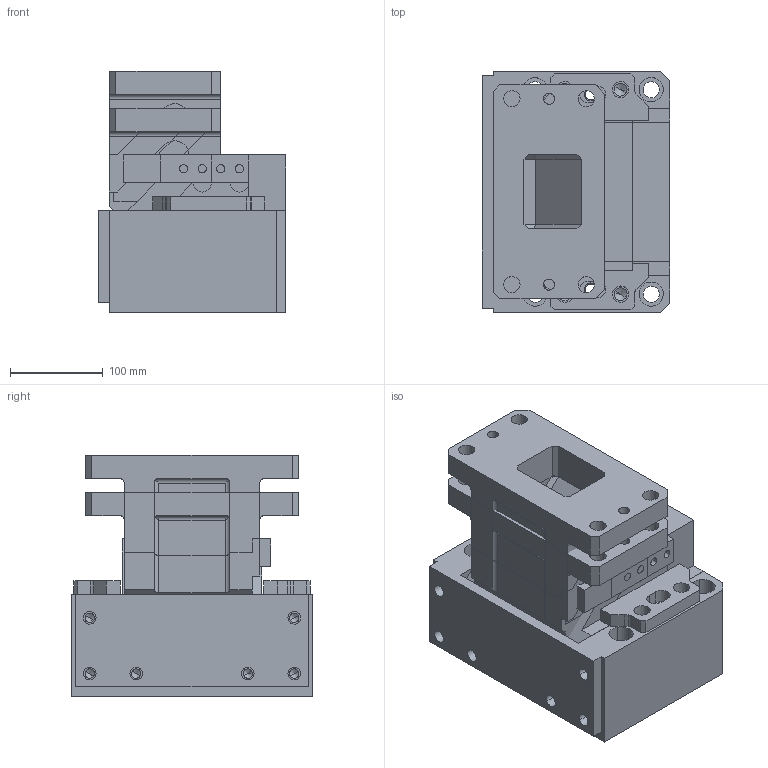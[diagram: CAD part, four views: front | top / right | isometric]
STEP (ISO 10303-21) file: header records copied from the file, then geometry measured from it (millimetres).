
FILE_DESCRIPTION(('CATIA V5 STEP','CAx-IF Rec.Pracs.--- Model Styling and Organization---1.4--- 2014-01-23','CAx-IF Rec.Pracs.---3D Tessellated Data Validation Properties---0.5---2014-09-14'),'2;1');
FILE_NAME('H:\_COMPRESS_2\2016.11.00.150.040.1.2__CM.stp','2020-11-18T12:53:11+00:00',('${USER}'),('AUDI AG, ${GROUP}'),'CATIA Version 5-6 Release 2018 SP3 HF27','CATIA V5 STEP AP242','none');
FILE_SCHEMA(('AP242_MANAGED_MODEL_BASED_3D_ENGINEERING_MIM_LF {1 0 10303 442 1 1 4}'));
Length unit declared in the file: millimetre
Products named in the file (1): 2016.11.00.150.040.1.2__CM
Bounding box: 202 x 260 x 260 mm (x, y, z)
Volume: 10923258.6 mm3; surface area: 840869.6 mm2
Topology: 4 solids, 4 shells, 504 faces, 1283 edges, 816 vertices
Faces by surface type: plane 291, cylinder 179, cone 28, sphere 4, bspline 2
Entity records: 14354 total; most frequent: CARTESIAN_POINT 2793, ORIENTED_EDGE 2512, DIRECTION 1983, EDGE_CURVE 1256, VECTOR 859, LINE 859, VERTEX_POINT 812, AXIS2_PLACEMENT_3D 738
